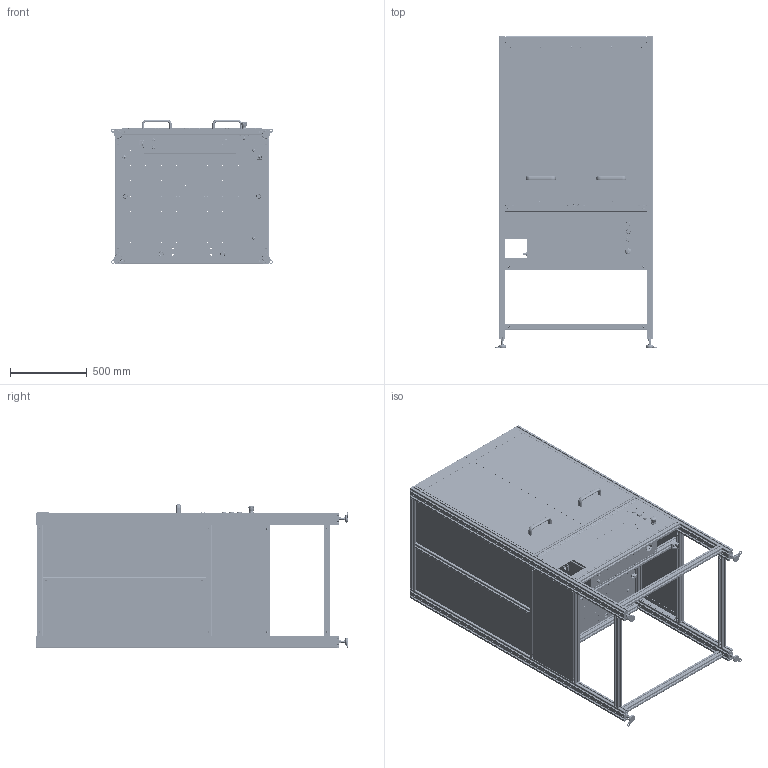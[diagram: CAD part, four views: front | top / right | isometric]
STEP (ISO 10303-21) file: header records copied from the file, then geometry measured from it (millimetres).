
FILE_DESCRIPTION(/* description */ (''),/* implementation_level */ '2;1');
FILE_NAME(/* name */ 'C:\$WorkingFolder\EngineeringData\2022 projects\sigamo\ROBOCU\ROBOCU-CUBE-ASM-2000_REV-B.stp',/* time_stamp */ '2022-05-24T13:29:47+01:00',/* author */ ('salta'),/* organization */ (''),/* preprocessor_version */ 'ST-DEVELOPER v19',/* originating_system */ 'Autodesk Inventor 2023',/* authorisation */ '');
FILE_SCHEMA (('AUTOMOTIVE_DESIGN { 1 0 10303 214 3 1 1 }'));
Products named in the file (243): ROBOCU-CUBE-ASM-2000; ROBOCU-FRME-ASM-0000; ROBOCU-FRME-ASM-0001; ROBOCU-FRME-PUR-0007; STRUT_PROFILE_40X80L; LEBURO-BASE-PUR-0016; LEBURO-BASE-PUR-0016_1; ROBOCU-FRME-PUR-0011; Levelling foot GN 32-50-M12-80-A1-SK; _Levelling foot GN 32-50-M12-80-A1-SK (0)-1; _Levelling foot GN 32-50-M12-80-A1-SK (0)-2; _Levelling foot GN 32-M12-3; LEBURO-BASE-PUR-0016_2; ROBOCU-FRME-PUR-0010; PLATE_40X80_3842536562; 40x80-M12-3842536562; DIN 7984 - M12 x 20 - ST88-VZP; QUICK_CONNECTOR_10_3842535458; 2022_03_23_15_17_45_0546; 2022_03_23_15_17_45_0515; 2022_03_23_15_17_45_0437; Cap_40x80_Grey_3842548748; Bracket_40_40_with_fastening_set_3842529383; Gusset_40_40_3842528967; T_BOLT_3842528715; FLANGE_NUT_M8_3842345081; LEBURO-BASE-PUR-0016_3; Angle bar anodized Alu 30x30x2; Angle bar anodized Alu 30x30x2_1; ROBOCU-FRME-PUR-0013; ROBOCU-FRME-PUR-0014; ROBOCU-FRME-STM-0011; ISO 4762  - M8 x 12 - ST88-VZK; ROBOCU-BASE-ASM-0002; ROBOCU-BASE-CNC-0002; DLE-RG-0001; DLE-RG-0001-ZLW-1040-S-konfig-X1; DLE-RG-0001-ZTF-104006; DLE-RG-0001-SAXT-104005; DLE-RG-0001-ZTF-10400S-R-L-V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
Assembly tree (627 placements, depth 7):
  ROBOCU-CUBE-ASM-2000
    ROBOCU-FRME-ASM-0000
      ROBOCU-FRME-ASM-0001
        ROBOCU-FRME-PUR-0007
        STRUT_PROFILE_40X80L  x4
        LEBURO-BASE-PUR-0016  x2
        LEBURO-BASE-PUR-0016_1  x8
        ROBOCU-FRME-PUR-0010  x4
        ROBOCU-FRME-PUR-0011
        Levelling foot GN 32-50-M12-80-A1-SK  x4
          _Levelling foot GN 32-50-M12-80-A1-SK (0)-1
          _Levelling foot GN 32-50-M12-80-A1-SK (0)-2
          _Levelling foot GN 32-M12-3
        QUICK_CONNECTOR_10_3842535458  x34
          2022_03_23_15_17_45_0546
          2022_03_23_15_17_45_0515
          2022_03_23_15_17_45_0437
        LEBURO-BASE-PUR-0016_2  x7
        PLATE_40X80_3842536562  x4
          40x80-M12-3842536562
          DIN 7984 - M12 x 20 - ST88-VZP
        Cap_40x80_Grey_3842548748  x4
        Bracket_40_40_with_fastening_set_3842529383  x2
          Gusset_40_40_3842528967
          T_BOLT_3842528715
          FLANGE_NUT_M8_3842345081
        LEBURO-BASE-PUR-0016_3
        Angle bar anodized Alu 30x30x2  x4
        Angle bar anodized Alu 30x30x2_1  x4
        ISO 4762  - M8 x 12 - ST88-VZK  x16
        T_NUT_N10_3842530287  x16
      ROBOCU-FRME-PUR-0013  x2
      ROBOCU-FRME-PUR-0014
      ROBOCU-FRME-STM-0011
      ISO 4762  - M8 x 12 - ST88-VZK  x4
      T_NUT_N10_3842530287  x4
    ROBOCU-BASE-ASM-0002
      ROBOCU-BASE-CNC-0002
      DLE-RG-0001
        DLE-RG-0001-ZLW-1040-S-konfig-X1
          DLE-RG-0001-ZSX-104001-konfig
          DLE-RG-0001-ZTL-104002
            DLE-RG-0001-SAXT-104001
            DLE-RG-0001-SAXT-104002
            DLE-RG-0001-NOR-10614  x2
            DLE-RG-0001-ZTL-10400S-V
              DLE-RG-0001-SAWT-104002
              DLE-RG-0001-NOR-10412  x4
              DLE-RG-0001-NOR-10604  x4
              DLE-RG-0001-JTEM-10  x4
              DLE-RG-0001-NOR-20901  x2
              DLE-RG-0001-ZTY-104035  x2
            DLE-RG-0001-ZTZ-104009  x2
          DLE-RG-0001-ZS-104001
            DLE-RG-0001-ZSY-104001
            DLE-RG-0001-WJUM-11-10  x4
              DLE-RG-0001-WM-01-10
              DLE-RG-0001-JUMO-01-10-S
            DLE-RG-0001-NOR-10601  x4
          DLE-RG-0001-ZR-104001-konfig
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Bounding box: 1054.14 x 2030.6 x 938.36 mm (x, y, z)
Volume: 60488641.6 mm3; surface area: 31961087.5 mm2
Topology: 764 solids, 779 shells, 40362 faces, 110022 edges, 71777 vertices
Faces by surface type: plane 26478, cylinder 9633, cone 2115, torus 1152, bspline 580, sphere 404
Full cylindrical faces by diameter (mm): 0.5 x12, 0.7 x12, 0.927 x21, 1 x49, 1.1 x2, 1.2 x2, 1.3 x4, 1.5 x53, 1.8 x46, 1.94 x1, 2 x52, 2.013 x27, 2.1 x4, 2.3 x4, 2.4 x4, 2.459 x13, 2.5 x29, 2.6 x21, 2.65 x8, 2.75 x8, 2.8 x12, 2.9 x4, 3 x49, 3.05 x4, 3.1 x2, 3.2 x7, 3.242 x32, 3.3 x6, 3.37 x2, 3.4 x30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
Entity records: 642394 total; most frequent: CARTESIAN_POINT 148019, ORIENTED_EDGE 101652, DIRECTION 97686, EDGE_CURVE 50826, LINE 37464, VECTOR 37464, VERTEX_POINT 33357, AXIS2_PLACEMENT_3D 30111
